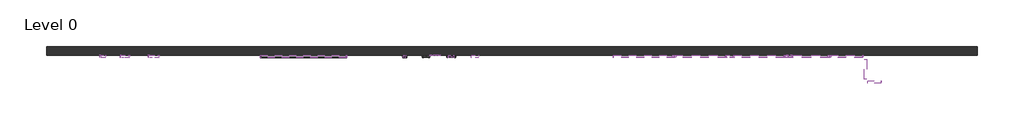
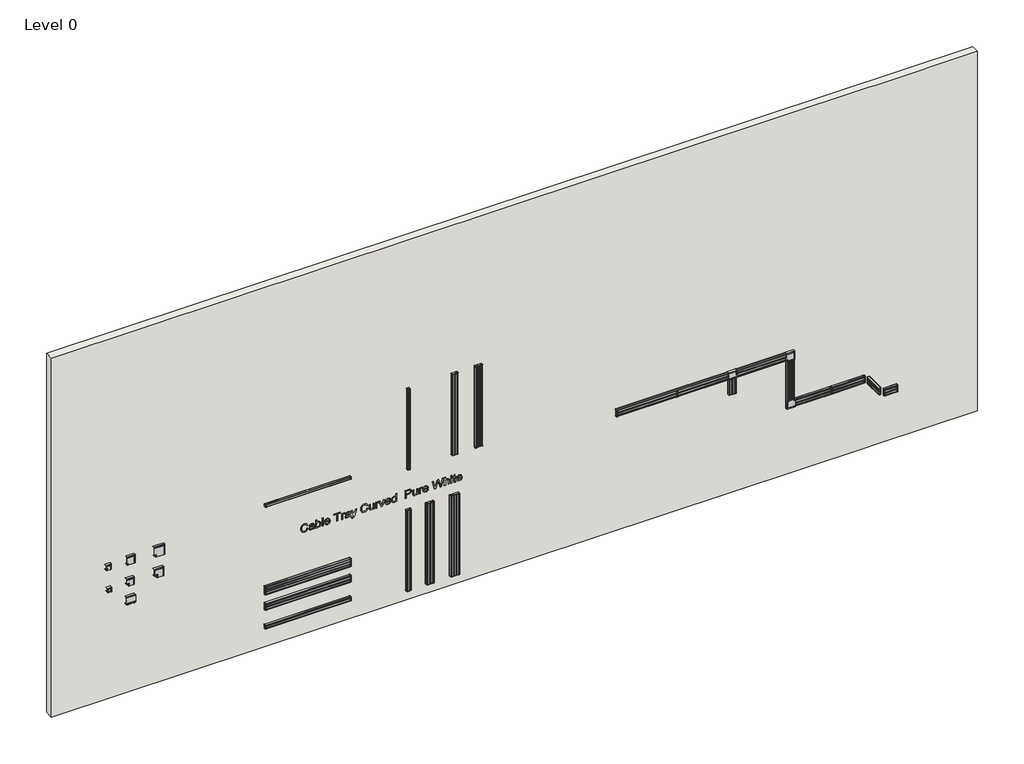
# One storey, incomplete: 21 proxies, 16 cable carrier segments, 13 cable carrier fittings, 1 wall.
"""IFC4 building model written with IfcOpenShell, lengths in millimetres."""

from ifc_helpers import new_model, si_unit, frame, origin, place, context, project, spatial, polyline, outline, extrude, faceted_brep, transform, mapped, element, save
from components import ral_9010_pure_white_70e795a8, ral_9010_pure_white_7b29b7ac, ral_9010_pure_white_c73d6e27, ral_9010_pure_white_ef00237f, ral_9010_pure_white_fda1ee66, ral_9010_pure_white_fe95fed6, ral_9010_pure_white_73966b3e, ral_9010_pure_white_6a0d687c, ral_9010_pure_white_d393c310, ral_9010_pure_white_26801523, ral_9010_pure_white_7a2c25fb, ral_9010_pure_white_f4a3dc08, ral_9010_pure_white_24a87ea1, ral_9010_pure_white_cb93105c, ral_9010_pure_white_b63ba4a8, ral_9010_pure_white_2c4c2dfb, ral_9010_pure_white_83b22ab2, ral_9010_pure_white_168bbefd, ral_9010_pure_white_77e8784b, ral_9010_pure_white_58f84067, ral_9010_pure_white_964a6856, ral_9010_pure_white_7680beca, ral_9010_pure_white_ffbb5359, ral_9010_pure_white_de79a6d9, ral_9010_pure_white_261b038a, ral_9010_pure_white_9b3faca7

model = new_model("IFC4")

# Units and contexts
model_context = context("Model", 3, world=origin())
ifc_project = project(units=[si_unit("LENGTHUNIT", "METRE", prefix="MILLI")], contexts=[model_context])

# Site, building, storey
site = spatial("IfcSite", under=ifc_project)
building = spatial("IfcBuilding", under=site)
storey = spatial("IfcBuildingStorey", under=building, Name="Level 0", Elevation=0.0)

# Proxies
placement = place(None, origin())
element("IfcBuildingElementProxy", 1, Name="200mm Arial", ObjectType="200mm Arial", at=placement, inside=storey, context=model_context, shape_type="SweptSolid", body=[
    extrude(outline(polyline([(2590.4407483, -14210.5435834), (2569.3590175, -14218.5063238), (2554.1907483, -14231.4330065), (2545.0320944, -14248.5544007), (2541.9792098, -14269.1012757), (2544.2207964, -14286.7274776), (2550.945556, -14303.0676219), (2562.2015656, -14316.6974296), (2578.0369021, -14326.1926219), (2597.7003637, -14331.7635353), (2620.4407483, -14333.6205065), (2639.0104598, -14332.0519969), (2657.0272868, -14327.346468), (2672.9647868, -14318.7707469), (2685.2965175, -14305.5916603), (2693.1931521, -14288.2238719), (2695.8253637, -14267.082045), (2693.4515656, -14248.7406988), (2686.3301714, -14233.8128142), (2674.0164694, -14222.1541603), (2656.0657483, -14213.6205065), (2661.9311329, -14189.0051219), (2686.6426714, -14199.8765161), (2705.1042098, -14216.8176219), (2716.6066137, -14239.1313238), (2720.4407483, -14266.1205065), (2717.4780079, -14290.8560834), (2708.5897868, -14313.4281988), (2693.992431, -14332.4606507), (2673.9022868, -14346.5772373), (2649.1066137, -14355.3212276), (2620.3926714, -14358.2358911), (2593.1691137, -14355.6577661), (2567.7484406, -14347.9233911), (2546.1258444, -14335.2551219), (2530.2965175, -14317.8753142), (2520.5969983, -14295.2010353), (2517.3638252, -14266.6493526), (2521.6366618, -14238.5243526), (2534.4551714, -14215.1108911), (2555.4107002, -14197.2863719), (2584.0945944, -14185.9281988), (2590.4407483, -14210.5435834)])), frame((0.0, 2566.5081828, 0.0), z_axis=(0.0, 1.0, 0.0), x_axis=(0.0, 0.0, 1.0)), (0.0, 0.0, 1.0), 5.0),
    extrude(outline(polyline([(2538.9022868, -14062.8512757), (2520.4407483, -14056.6974296), (2520.4407483, -14032.082045), (2541.1378637, -14036.9858911), (2583.9022868, -14038.2358911), (2614.5272868, -14038.2358911), (2636.0657483, -14039.4378142), (2652.7724791, -14046.9858911), (2663.758056, -14063.8368526), (2668.133056, -14093.6685834), (2663.1811329, -14126.144545), (2657.1835368, -14138.5123334), (2649.0945944, -14147.5868526), (2625.0561329, -14158.2358911), (2621.9792098, -14133.6205065), (2632.2135848, -14128.7286796), (2638.7820944, -14121.7455065), (2643.5176714, -14096.8416603), (2641.7388252, -14081.0003142), (2636.4022868, -14069.6301219), (2629.2147868, -14064.5459873), (2618.2292098, -14062.8512757), (2612.7484406, -14062.9955065), (2604.2869021, -14105.6878142), (2600.5849791, -14126.9858911), (2592.508056, -14144.221468), (2578.3734406, -14156.6012757), (2558.9022868, -14161.3128142), (2542.351806, -14158.1938238), (2529.0465175, -14148.8368526), (2520.2844983, -14133.6625738), (2517.3638252, -14113.0916603), (2522.2195944, -14086.721468), (2538.9022868, -14062.8512757)]), holes=[polyline([(2588.133056, -14062.8512757), (2581.1619021, -14062.9955065), (2562.1234406, -14066.8897373), (2547.8686329, -14082.9474296), (2543.4515656, -14094.6301219), (2541.9792098, -14107.8512757), (2543.3133444, -14120.3212276), (2547.3157483, -14129.3656988), (2553.3133444, -14134.8644969), (2560.633056, -14136.6974296), (2570.1042098, -14133.332045), (2576.5945944, -14123.7406988), (2580.5849791, -14102.5628142), (2588.133056, -14062.8512757)])]), frame((0.0, 2566.5081828, 0.0), z_axis=(0.0, 1.0, 0.0), x_axis=(0.0, 0.0, 1.0)), (0.0, 0.0, 1.0), 5.0),
    extrude(outline(polyline([(2520.4407483, -13979.7743526), (2543.4695944, -13979.7743526), (2523.8902675, -13963.1517565), (2518.9954358, -13952.8662998), (2517.3638252, -13941.2647373), (2522.4239214, -13918.3260353), (2537.6042098, -13898.9330065), (2562.0513252, -13885.7178623), (2594.9119021, -13881.3128142), (2624.2628637, -13885.5676219), (2647.7003637, -13897.3224296), (2662.7724791, -13916.457045), (2668.133056, -13941.1205065), (2662.1835368, -13962.5387757), (2644.3349791, -13979.7743526), (2717.3638252, -13979.7743526), (2717.3638252, -14004.3897373), (2520.4407483, -14004.3897373), (2520.4407483, -13979.7743526)]), holes=[polyline([(2593.758056, -13979.7743526), (2615.0921906, -13976.9979103), (2630.7292098, -13968.6685834), (2640.320556, -13956.5291603), (2643.5176714, -13942.3224296), (2640.4287291, -13928.3380546), (2631.1619021, -13916.5772373), (2615.4167098, -13908.5904584), (2592.8926714, -13905.9281988), (2570.6931521, -13908.7046411), (2554.7676714, -13917.033968), (2545.1763252, -13929.1733911), (2541.9792098, -13943.3801219), (2546.3181521, -13960.1469488), (2559.3349791, -13973.0435834), (2573.2292098, -13978.0916603), (2593.758056, -13979.7743526)])]), frame((0.0, 2566.5081828, 0.0), z_axis=(0.0, 1.0, 0.0), x_axis=(0.0, 0.0, 1.0)), (0.0, 0.0, 1.0), 5.0),
    extrude(outline(polyline([(-13829.0051219, 2566.5081828), (-13853.6205065, 2566.5081828), (-13853.6205065, 2571.5081828), (-13829.0051219, 2571.5081828), (-13829.0051219, 2566.5081828)])), frame((0.0, 0.0, 2520.4407483), z_axis=(0.0, 0.0, 1.0), x_axis=(1.0, 0.0, 0.0)), (0.0, 0.0, 1.0), 196.9230769),
    extrude(outline(polyline([(2563.5176714, -13690.832045), (2553.7941137, -13697.7310834), (2547.1234406, -13706.6974296), (2541.9792098, -13730.832045), (2544.7556521, -13748.25392), (2553.0849791, -13762.5387757), (2566.6306521, -13772.4366123), (2585.0561329, -13776.6974296), (2585.0561329, -13666.0724296), (2591.6907483, -13665.9281988), (2623.9623829, -13670.59767), (2648.0849791, -13684.6060834), (2663.1210368, -13705.9702661), (2668.133056, -13732.707045), (2663.1090175, -13760.3031988), (2648.0369021, -13782.2262757), (2623.8662291, -13796.5411796), (2591.5465175, -13801.3128142), (2560.2784887, -13796.5892565), (2536.8590175, -13782.4185834), (2522.2376233, -13760.1950257), (2517.3638252, -13731.3128142), (2520.1883444, -13708.0135353), (2528.6619021, -13689.269545), (2542.2556521, -13675.393343), (2560.4407483, -13666.6974296), (2563.5176714, -13690.832045)]), holes=[polyline([(2609.6715175, -13776.6974296), (2623.5477194, -13772.6529584), (2634.3109406, -13763.1156988), (2641.2159887, -13749.3957469), (2643.5176714, -13732.8031988), (2640.633056, -13714.7503142), (2631.9792098, -13700.3993526), (2622.6763252, -13693.8729103), (2609.6715175, -13690.5435834), (2609.6715175, -13776.6974296)])]), frame((0.0, 2566.5081828, 0.0), z_axis=(0.0, 1.0, 0.0), x_axis=(0.0, 0.0, 1.0)), (0.0, 0.0, 1.0), 5.0),
    extrude(outline(polyline([(2520.4407483, -13512.082045), (2520.4407483, -13487.4666603), (2692.7484406, -13487.4666603), (2692.7484406, -13422.8512757), (2717.3638252, -13422.8512757), (2717.3638252, -13576.6974296), (2692.7484406, -13576.6974296), (2692.7484406, -13512.082045), (2520.4407483, -13512.082045)])), frame((0.0, 2566.5081828, 0.0), z_axis=(0.0, 1.0, 0.0), x_axis=(0.0, 0.0, 1.0)), (0.0, 0.0, 1.0), 5.0),
    extrude(outline(polyline([(2520.4407483, -13398.2358911), (2520.4407483, -13373.6205065), (2596.4503637, -13373.6205065), (2625.2003637, -13369.6301219), (2638.6619021, -13360.7599296), (2643.5176714, -13346.8416603), (2638.4695944, -13329.533968), (2660.5369021, -13321.3128142), (2666.2340175, -13333.7647373), (2668.133056, -13346.0243526), (2663.3734406, -13361.408968), (2643.6619021, -13376.6974296), (2665.0561329, -13376.6974296), (2665.0561329, -13398.2358911), (2520.4407483, -13398.2358911)])), frame((0.0, 2566.5081828, 0.0), z_axis=(0.0, 1.0, 0.0), x_axis=(0.0, 0.0, 1.0)), (0.0, 0.0, 1.0), 5.0),
    extrude(outline(polyline([(2538.9022868, -13213.6205065), (2520.4407483, -13207.4666603), (2520.4407483, -13182.8512757), (2541.1378637, -13187.7551219), (2583.9022868, -13189.0051219), (2614.5272868, -13189.0051219), (2636.0657483, -13190.207045), (2652.7724791, -13197.7551219), (2663.758056, -13214.6060834), (2668.133056, -13244.4378142), (2663.1811329, -13276.9137757), (2657.1835368, -13289.2815642), (2649.0945944, -13298.3560834), (2625.0561329, -13309.0051219), (2621.9792098, -13284.3897373), (2632.2135848, -13279.4979103), (2638.7820944, -13272.5147373), (2643.5176714, -13247.6108911), (2641.7388252, -13231.769545), (2636.4022868, -13220.3993526), (2629.2147868, -13215.315218), (2618.2292098, -13213.6205065), (2612.7484406, -13213.7647373), (2604.2869021, -13256.457045), (2600.5849791, -13277.7551219), (2592.508056, -13294.9906988), (2578.3734406, -13307.3705065), (2558.9022868, -13312.082045), (2542.351806, -13308.9630546), (2529.0465175, -13299.6060834), (2520.2844983, -13284.4318046), (2517.3638252, -13263.8608911), (2522.2195944, -13237.4906988), (2538.9022868, -13213.6205065)]), holes=[polyline([(2588.133056, -13213.6205065), (2581.1619021, -13213.7647373), (2562.1234406, -13217.658968), (2547.8686329, -13233.7166603), (2543.4515656, -13245.3993526), (2541.9792098, -13258.6205065), (2543.3133444, -13271.0904584), (2547.3157483, -13280.1349296), (2553.3133444, -13285.6337276), (2560.633056, -13287.4666603), (2570.1042098, -13284.1012757), (2576.5945944, -13274.5099296), (2580.5849791, -13253.332045), (2588.133056, -13213.6205065)])]), frame((0.0, 2566.5081828, 0.0), z_axis=(0.0, 1.0, 0.0), x_axis=(0.0, 0.0, 1.0)), (0.0, 0.0, 1.0), 5.0),
    extrude(outline(polyline([(2465.0561329, -13155.158968), (2461.9792098, -13140.1108911), (2467.508056, -13120.9281988), (2484.8638252, -13106.6493526), (2516.9792098, -13093.5724296), (2665.0561329, -13043.2358911), (2665.0561329, -13069.0051219), (2581.0176714, -13097.5147373), (2552.6522868, -13107.1781988), (2584.7676714, -13116.8416603), (2665.0561329, -13144.582045), (2665.0561329, -13170.5435834), (2520.9695944, -13118.2358911), (2515.008056, -13120.158968), (2496.883056, -13126.8897373), (2489.3109406, -13134.0531988), (2486.5945944, -13145.7358911), (2488.758056, -13158.2358911), (2465.0561329, -13155.158968)])), frame((0.0, 2566.5081828, 0.0), z_axis=(0.0, 1.0, 0.0), x_axis=(0.0, 0.0, 1.0)), (0.0, 0.0, 1.0), 5.0),
    extrude(outline(polyline([(2590.4407483, -12804.3897373), (2569.3590175, -12812.3524776), (2554.1907483, -12825.2791603), (2545.0320944, -12842.4005546), (2541.9792098, -12862.9474296), (2544.2207964, -12880.5736315), (2550.945556, -12896.9137757), (2562.2015656, -12910.5435834), (2578.0369021, -12920.0387757), (2597.7003637, -12925.6096892), (2620.4407483, -12927.4666603), (2639.0104598, -12925.8981507), (2657.0272868, -12921.1926219), (2672.9647868, -12912.6169007), (2685.2965175, -12899.4378142), (2693.1931521, -12882.0700257), (2695.8253637, -12860.9281988), (2693.4515656, -12842.5868526), (2686.3301714, -12827.658968), (2674.0164694, -12816.0003142), (2656.0657483, -12807.4666603), (2661.9311329, -12782.8512757), (2686.6426714, -12793.72267), (2705.1042098, -12810.6637757), (2716.6066137, -12832.9774776), (2720.4407483, -12859.9666603), (2717.4780079, -12884.7022373), (2708.5897868, -12907.2743526), (2693.992431, -12926.3068046), (2673.9022868, -12940.4233911), (2649.1066137, -12949.1673815), (2620.3926714, -12952.082045), (2593.1691137, -12949.50392), (2567.7484406, -12941.769545), (2546.1258444, -12929.1012757), (2530.2965175, -12911.721468), (2520.5969983, -12889.0471892), (2517.3638252, -12860.4955065), (2521.6366618, -12832.3705065), (2534.4551714, -12808.957045), (2555.4107002, -12791.1325257), (2584.0945944, -12779.7743526), (2590.4407483, -12804.3897373)])), frame((0.0, 2566.5081828, 0.0), z_axis=(0.0, 1.0, 0.0), x_axis=(0.0, 0.0, 1.0)), (0.0, 0.0, 1.0), 5.0),
    extrude(outline(polyline([(2520.4407483, -12656.6974296), (2520.4407483, -12632.082045), (2665.0561329, -12632.082045), (2665.0561329, -12656.6974296), (2589.8157483, -12656.6974296), (2562.3878637, -12660.6878142), (2553.9323348, -12666.0784392), (2547.4599791, -12674.269545), (2541.9792098, -12694.8224296), (2547.3397868, -12713.1637757), (2553.7039694, -12719.3116123), (2562.0753637, -12722.8993526), (2587.1715175, -12724.3897373), (2665.0561329, -12724.3897373), (2665.0561329, -12749.0051219), (2575.5849791, -12749.0051219), (2552.7003637, -12747.5628142), (2534.5753637, -12740.2310834), (2522.2676714, -12724.269545), (2517.3638252, -12701.1205065), (2519.1096185, -12687.815218), (2524.3469983, -12675.9762757), (2533.0759646, -12665.6036796), (2545.2965175, -12656.6974296), (2520.4407483, -12656.6974296)])), frame((0.0, 2566.5081828, 0.0), z_axis=(0.0, 1.0, 0.0), x_axis=(0.0, 0.0, 1.0)), (0.0, 0.0, 1.0), 5.0),
    extrude(outline(polyline([(2520.4407483, -12598.2358911), (2520.4407483, -12573.6205065), (2596.4503637, -12573.6205065), (2625.2003637, -12569.6301219), (2638.6619021, -12560.7599296), (2643.5176714, -12546.8416603), (2638.4695944, -12529.533968), (2660.5369021, -12521.3128142), (2666.2340175, -12533.7647373), (2668.133056, -12546.0243526), (2663.3734406, -12561.408968), (2643.6619021, -12576.6974296), (2665.0561329, -12576.6974296), (2665.0561329, -12598.2358911), (2520.4407483, -12598.2358911)])), frame((0.0, 2566.5081828, 0.0), z_axis=(0.0, 1.0, 0.0), x_axis=(0.0, 0.0, 1.0)), (0.0, 0.0, 1.0), 5.0),
    extrude(outline(polyline([(2520.4407483, -12470.4474296), (2520.4407483, -12439.2455065), (2665.0561329, -12389.0051219), (2665.0561329, -12415.0628142), (2576.7869021, -12446.0724296), (2549.2869021, -12455.158968), (2578.4215175, -12464.4378142), (2665.0561329, -12495.2551219), (2665.0561329, -12521.3128142), (2520.4407483, -12470.4474296)])), frame((0.0, 2566.5081828, 0.0), z_axis=(0.0, 1.0, 0.0), x_axis=(0.0, 0.0, 1.0)), (0.0, 0.0, 1.0), 5.0),
    extrude(outline(polyline([(2563.5176714, -12266.2166603), (2553.7941137, -12273.1156988), (2547.1234406, -12282.082045), (2541.9792098, -12306.2166603), (2544.7556521, -12323.6385353), (2553.0849791, -12337.9233911), (2566.6306521, -12347.8212276), (2585.0561329, -12352.082045), (2585.0561329, -12241.457045), (2591.6907483, -12241.3128142), (2623.9623829, -12245.9822853), (2648.0849791, -12259.9906988), (2663.1210368, -12281.3548815), (2668.133056, -12308.0916603), (2663.1090175, -12335.6878142), (2648.0369021, -12357.6108911), (2623.8662291, -12371.925795), (2591.5465175, -12376.6974296), (2560.2784887, -12371.9738719), (2536.8590175, -12357.8031988), (2522.2376233, -12335.5796411), (2517.3638252, -12306.6974296), (2520.1883444, -12283.3981507), (2528.6619021, -12264.6541603), (2542.2556521, -12250.7779584), (2560.4407483, -12242.082045), (2563.5176714, -12266.2166603)]), holes=[polyline([(2609.6715175, -12352.082045), (2623.5477194, -12348.0375738), (2634.3109406, -12338.5003142), (2641.2159887, -12324.7803623), (2643.5176714, -12308.1878142), (2640.633056, -12290.1349296), (2631.9792098, -12275.783968), (2622.6763252, -12269.2575257), (2609.6715175, -12265.9281988), (2609.6715175, -12352.082045)])]), frame((0.0, 2566.5081828, 0.0), z_axis=(0.0, 1.0, 0.0), x_axis=(0.0, 0.0, 1.0)), (0.0, 0.0, 1.0), 5.0),
    extrude(outline(polyline([(2520.4407483, -12127.4666603), (2520.4407483, -12102.8512757), (2717.3638252, -12102.8512757), (2717.3638252, -12127.4666603), (2643.9984406, -12127.4666603), (2661.4263252, -12143.6685834), (2666.4563733, -12154.3176219), (2668.133056, -12166.3608911), (2665.789306, -12182.893343), (2658.758056, -12197.7791603), (2647.3277675, -12210.0868526), (2631.7869021, -12218.8849296), (2613.1931521, -12224.1673815), (2592.6042098, -12225.9281988), (2571.7568541, -12224.0171411), (2553.445556, -12218.283968), (2538.2832964, -12209.0772373), (2526.883056, -12196.7455065), (2519.7436329, -12182.1781988), (2517.3638252, -12166.2647373), (2519.007455, -12154.2304825), (2523.9383444, -12143.752718), (2532.1564935, -12134.831444), (2543.6619021, -12127.4666603), (2520.4407483, -12127.4666603)]), holes=[polyline([(2592.7003637, -12201.3128142), (2615.5188733, -12198.7166603), (2631.2820944, -12190.9281988), (2640.4587771, -12179.2575257), (2643.5176714, -12165.0147373), (2640.3325752, -12150.4053623), (2630.7772868, -12138.3080065), (2614.4191137, -12130.1769969), (2590.8253637, -12127.4666603), (2569.2448348, -12130.12892), (2554.0224791, -12138.1156988), (2544.9900271, -12149.9125738), (2541.9792098, -12164.0051219), (2545.1342579, -12178.1036796), (2554.5994021, -12190.207045), (2570.4347387, -12198.5363719), (2592.7003637, -12201.3128142)])]), frame((0.0, 2566.5081828, 0.0), z_axis=(0.0, 1.0, 0.0), x_axis=(0.0, 0.0, 1.0)), (0.0, 0.0, 1.0), 5.0),
    extrude(outline(polyline([(2520.4407483, -11909.0051219), (2520.4407483, -11884.3897373), (2600.4407483, -11884.3897373), (2600.4407483, -11834.3416603), (2604.7917098, -11799.3717084), (2610.2304118, -11786.6688839), (2617.8445944, -11777.1541603), (2637.1835368, -11765.2731507), (2660.3926714, -11761.3128142), (2687.2436329, -11767.1781988), (2698.1210368, -11773.987093), (2706.2820944, -11782.6830065), (2715.4888252, -11806.6012757), (2717.3638252, -11836.0243526), (2717.3638252, -11909.0051219), (2520.4407483, -11909.0051219)]), holes=[polyline([(2625.0561329, -11884.3897373), (2692.7484406, -11884.3897373), (2692.7484406, -11833.4762757), (2691.0657483, -11808.8608911), (2686.9311329, -11799.5640161), (2679.9119021, -11792.2503142), (2670.5849791, -11787.5087276), (2659.5272868, -11785.9281988), (2644.9719983, -11788.6084873), (2634.0945944, -11796.6493526), (2627.3157483, -11811.0724296), (2625.0561329, -11832.8993526), (2625.0561329, -11884.3897373)])]), frame((0.0, 2566.5081828, 0.0), z_axis=(0.0, 1.0, 0.0), x_axis=(0.0, 0.0, 1.0)), (0.0, 0.0, 1.0), 5.0),
    extrude(outline(polyline([(2520.4407483, -11638.2358911), (2520.4407483, -11613.6205065), (2665.0561329, -11613.6205065), (2665.0561329, -11638.2358911), (2589.8157483, -11638.2358911), (2562.3878637, -11642.2262757), (2553.9323348, -11647.6169007), (2547.4599791, -11655.8080065), (2541.9792098, -11676.3608911), (2547.3397868, -11694.7022373), (2553.7039694, -11700.8500738), (2562.0753637, -11704.4378142), (2587.1715175, -11705.9281988), (2665.0561329, -11705.9281988), (2665.0561329, -11730.5435834), (2575.5849791, -11730.5435834), (2552.7003637, -11729.1012757), (2534.5753637, -11721.769545), (2522.2676714, -11705.8080065), (2517.3638252, -11682.658968), (2519.1096185, -11669.3536796), (2524.3469983, -11657.5147373), (2533.0759646, -11647.1421411), (2545.2965175, -11638.2358911), (2520.4407483, -11638.2358911)])), frame((0.0, 2566.5081828, 0.0), z_axis=(0.0, 1.0, 0.0), x_axis=(0.0, 0.0, 1.0)), (0.0, 0.0, 1.0), 5.0),
    extrude(outline(polyline([(2520.4407483, -11579.7743526), (2520.4407483, -11555.158968), (2596.4503637, -11555.158968), (2625.2003637, -11551.1685834), (2638.6619021, -11542.2983911), (2643.5176714, -11528.3801219), (2638.4695944, -11511.0724296), (2660.5369021, -11502.8512757), (2666.2340175, -11515.3031988), (2668.133056, -11527.5628142), (2663.3734406, -11542.9474296), (2643.6619021, -11558.2358911), (2665.0561329, -11558.2358911), (2665.0561329, -11579.7743526), (2520.4407483, -11579.7743526)])), frame((0.0, 2566.5081828, 0.0), z_axis=(0.0, 1.0, 0.0), x_axis=(0.0, 0.0, 1.0)), (0.0, 0.0, 1.0), 5.0),
    extrude(outline(polyline([(2563.5176714, -11386.2166603), (2553.7941137, -11393.1156988), (2547.1234406, -11402.082045), (2541.9792098, -11426.2166603), (2544.7556521, -11443.6385353), (2553.0849791, -11457.9233911), (2566.6306521, -11467.8212276), (2585.0561329, -11472.082045), (2585.0561329, -11361.457045), (2591.6907483, -11361.3128142), (2623.9623829, -11365.9822853), (2648.0849791, -11379.9906988), (2663.1210368, -11401.3548815), (2668.133056, -11428.0916603), (2663.1090175, -11455.6878142), (2648.0369021, -11477.6108911), (2623.8662291, -11491.925795), (2591.5465175, -11496.6974296), (2560.2784887, -11491.9738719), (2536.8590175, -11477.8031988), (2522.2376233, -11455.5796411), (2517.3638252, -11426.6974296), (2520.1883444, -11403.3981507), (2528.6619021, -11384.6541603), (2542.2556521, -11370.7779584), (2560.4407483, -11362.082045), (2563.5176714, -11386.2166603)]), holes=[polyline([(2609.6715175, -11472.082045), (2623.5477194, -11468.0375738), (2634.3109406, -11458.5003142), (2641.2159887, -11444.7803623), (2643.5176714, -11428.1878142), (2640.633056, -11410.1349296), (2631.9792098, -11395.783968), (2622.6763252, -11389.2575257), (2609.6715175, -11385.9281988), (2609.6715175, -11472.082045)])]), frame((0.0, 2566.5081828, 0.0), z_axis=(0.0, 1.0, 0.0), x_axis=(0.0, 0.0, 1.0)), (0.0, 0.0, 1.0), 5.0),
    extrude(outline(polyline([(2520.4407483, -11221.457045), (2520.4407483, -11191.7455065), (2668.0369021, -11148.7166603), (2693.5657483, -11141.3128142), (2672.3638252, -11134.7262757), (2520.4407483, -11087.5147373), (2520.4407483, -11061.2166603), (2717.3638252, -11007.4666603), (2717.3638252, -11032.8512757), (2586.7869021, -11064.2935834), (2547.9888252, -11073.6205065), (2620.2003637, -11094.7262757), (2717.3638252, -11123.0916603), (2717.3638252, -11159.6781988), (2583.3253637, -11198.7166603), (2547.9888252, -11209.0051219), (2587.9407483, -11218.6205065), (2717.3638252, -11249.7743526), (2717.3638252, -11275.158968), (2520.4407483, -11221.457045)])), frame((0.0, 2566.5081828, 0.0), z_axis=(0.0, 1.0, 0.0), x_axis=(0.0, 0.0, 1.0)), (0.0, 0.0, 1.0), 5.0),
    extrude(outline(polyline([(2520.4407483, -10985.9281988), (2520.4407483, -10961.3128142), (2597.2676714, -10961.3128142), (2623.1811329, -10957.2983911), (2631.5825752, -10951.925795), (2638.0369021, -10943.8368526), (2643.5176714, -10923.6685834), (2641.4864214, -10910.9281988), (2635.3926714, -10901.457045), (2624.8397868, -10895.5796411), (2609.4311329, -10893.6205065), (2520.4407483, -10893.6205065), (2520.4407483, -10869.0051219), (2611.9792098, -10869.0051219), (2630.6691137, -10870.2671411), (2644.3349791, -10874.0531988), (2654.2808925, -10880.7719488), (2661.8109406, -10890.832045), (2666.5525271, -10903.6084873), (2668.133056, -10918.4762757), (2662.3397868, -10942.1181026), (2644.9599791, -10961.3128142), (2717.3638252, -10961.3128142), (2717.3638252, -10985.9281988), (2520.4407483, -10985.9281988)])), frame((0.0, 2566.5081828, 0.0), z_axis=(0.0, 1.0, 0.0), x_axis=(0.0, 0.0, 1.0)), (0.0, 0.0, 1.0), 5.0),
    extrude(outline(polyline([(-10810.5435834, 2566.5081828), (-10835.158968, 2566.5081828), (-10835.158968, 2571.5081828), (-10810.5435834, 2571.5081828), (-10810.5435834, 2566.5081828)])), frame((0.0, 0.0, 2520.4407483), z_axis=(0.0, 0.0, 1.0), x_axis=(1.0, 0.0, 0.0)), (0.0, 0.0, 1.0), 144.6153846),
    extrude(outline(polyline([(-10810.5435834, 2566.5081828), (-10835.158968, 2566.5081828), (-10835.158968, 2571.5081828), (-10810.5435834, 2571.5081828), (-10810.5435834, 2566.5081828)])), frame((0.0, 0.0, 2692.7484406), z_axis=(0.0, 0.0, 1.0), x_axis=(1.0, 0.0, 0.0)), (0.0, 0.0, 1.0), 24.6153846),
    extrude(outline(polyline([(2540.9695944, -10721.3128142), (2541.9792098, -10732.033968), (2543.6378637, -10740.4233911), (2548.133056, -10744.6301219), (2560.8253637, -10745.9281988), (2640.4407483, -10745.9281988), (2640.4407483, -10721.3128142), (2665.0561329, -10721.3128142), (2665.0561329, -10745.9281988), (2714.6715175, -10745.9281988), (2700.2003637, -10770.5435834), (2665.0561329, -10770.5435834), (2665.0561329, -10789.0051219), (2640.4407483, -10789.0051219), (2640.4407483, -10770.5435834), (2560.1042098, -10770.5435834), (2532.1715175, -10767.5628142), (2521.4503637, -10757.2743526), (2517.3638252, -10736.6493526), (2519.7195944, -10718.2358911), (2540.9695944, -10721.3128142)])), frame((0.0, 2566.5081828, 0.0), z_axis=(0.0, 1.0, 0.0), x_axis=(0.0, 0.0, 1.0)), (0.0, 0.0, 1.0), 5.0),
    extrude(outline(polyline([(2563.5176714, -10595.4474296), (2553.7941137, -10602.346468), (2547.1234406, -10611.3128142), (2541.9792098, -10635.4474296), (2544.7556521, -10652.8693046), (2553.0849791, -10667.1541603), (2566.6306521, -10677.0519969), (2585.0561329, -10681.3128142), (2585.0561329, -10570.6878142), (2591.6907483, -10570.5435834), (2623.9623829, -10575.2130546), (2648.0849791, -10589.221468), (2663.1210368, -10610.5856507), (2668.133056, -10637.3224296), (2663.1090175, -10664.9185834), (2648.0369021, -10686.8416603), (2623.8662291, -10701.1565642), (2591.5465175, -10705.9281988), (2560.2784887, -10701.2046411), (2536.8590175, -10687.033968), (2522.2376233, -10664.8104103), (2517.3638252, -10635.9281988), (2520.1883444, -10612.62892), (2528.6619021, -10593.8849296), (2542.2556521, -10580.0087276), (2560.4407483, -10571.3128142), (2563.5176714, -10595.4474296)]), holes=[polyline([(2609.6715175, -10681.3128142), (2623.5477194, -10677.268343), (2634.3109406, -10667.7310834), (2641.2159887, -10654.0111315), (2643.5176714, -10637.4185834), (2640.633056, -10619.3656988), (2631.9792098, -10605.0147373), (2622.6763252, -10598.488295), (2609.6715175, -10595.158968), (2609.6715175, -10681.3128142)])]), frame((0.0, 2566.5081828, 0.0), z_axis=(0.0, 1.0, 0.0), x_axis=(0.0, 0.0, 1.0)), (0.0, 0.0, 1.0), 5.0),
])
ral_9010_pure_white_shape = ral_9010_pure_white_70e795a8(model_context)
element("IfcBuildingElementProxy", 2, Name="Electrical_Installations_Hager_GBD-Curved-Lid-End-Cap : RAL 9010 - pure white", ObjectType="Electrical_Installations_Hager_GBD-Curved-Lid-End-Cap : RAL 9010 - pure white", at=placement, inside=storey, context=model_context, shape_type="MappedRepresentation", body=[
    mapped(ral_9010_pure_white_shape, transform((-11345.0321542, 2545.5260198, 2243.4145405), x_axis=(0.0, 0.0, -1.0), y_axis=(1.0, 0.0, 0.0), z_axis=(0.0, -1.0, 0.0))),
])
element("IfcBuildingElementProxy", 3, Name="Electrical_Installations_Hager_GBD-Curved-Lid-End-Cap : RAL 9010 - pure white", ObjectType="Electrical_Installations_Hager_GBD-Curved-Lid-End-Cap : RAL 9010 - pure white", at=placement, inside=storey, context=model_context, shape_type="MappedRepresentation", body=[
    mapped(ral_9010_pure_white_shape, transform((-15206.2821542, 2545.5260198, 1015.9145405), x_axis=(1.0, 0.0, 0.0), y_axis=(0.0, 0.0, 1.0), z_axis=(0.0, -1.0, 0.0))),
])
ral_9010_pure_white_2_shape = ral_9010_pure_white_7b29b7ac(model_context)
element("IfcBuildingElementProxy", 4, Name="Electrical_Installations_Hager_GBD-Curved-Lid-End-Cap : RAL 9010 - pure white", ObjectType="Electrical_Installations_Hager_GBD-Curved-Lid-End-Cap : RAL 9010 - pure white", at=placement, inside=storey, context=model_context, shape_type="MappedRepresentation", body=[
    mapped(ral_9010_pure_white_2_shape, transform((-10765.0321542, 2545.5260198, 2243.4145405), x_axis=(0.0, 0.0, -1.0), y_axis=(1.0, 0.0, 0.0), z_axis=(0.0, -1.0, 0.0))),
])
element("IfcBuildingElementProxy", 5, Name="Electrical_Installations_Hager_GBD-Curved-Lid-End-Cap : RAL 9010 - pure white", ObjectType="Electrical_Installations_Hager_GBD-Curved-Lid-End-Cap : RAL 9010 - pure white", at=placement, inside=storey, context=model_context, shape_type="MappedRepresentation", body=[
    mapped(ral_9010_pure_white_2_shape, transform((-15206.2821542, 2545.5260198, 1415.9145405), x_axis=(1.0, 0.0, 0.0), y_axis=(0.0, 0.0, 1.0), z_axis=(0.0, -1.0, 0.0))),
])
ral_9010_pure_white_3_shape = ral_9010_pure_white_c73d6e27(model_context)
element("IfcBuildingElementProxy", 6, Name="Electrical_Installations_Hager_GBD-Curved-Lid-End-Cap : RAL 9010 - pure white", ObjectType="Electrical_Installations_Hager_GBD-Curved-Lid-End-Cap : RAL 9010 - pure white", at=placement, inside=storey, context=model_context, shape_type="MappedRepresentation", body=[
    mapped(ral_9010_pure_white_3_shape, transform((-4347.0321542, 2544.0960198, 2932.9948074), x_axis=(-1.0, 0.0, 0.0), y_axis=(0.0, 0.0, -1.0), z_axis=(0.0, -1.0, 0.0))),
])
ral_9010_pure_white_4_shape = ral_9010_pure_white_ef00237f(model_context)
element("IfcBuildingElementProxy", 7, Name="Electrical_Installations_Hager_GBD-Curved-Lid-End-Cap : RAL 9010 - pure white", ObjectType="Electrical_Installations_Hager_GBD-Curved-Lid-End-Cap : RAL 9010 - pure white", at=placement, inside=storey, context=model_context, shape_type="MappedRepresentation", body=[
    mapped(ral_9010_pure_white_4_shape, transform((-5559.1766964, 2544.0960198, 2932.9948074), x_axis=(-1.0, 0.0, 0.0), y_axis=(0.0, 0.0, -1.0), z_axis=(0.0, -1.0, 0.0))),
])
ral_9010_pure_white_5_shape = ral_9010_pure_white_fda1ee66(model_context)
element("IfcBuildingElementProxy", 8, Name="Electrical_Installations_Hager_GBD-Curved-Lid-End-Cap : RAL 9010 - pure white", ObjectType="Electrical_Installations_Hager_GBD-Curved-Lid-End-Cap : RAL 9010 - pure white", at=placement, inside=storey, context=model_context, shape_type="MappedRepresentation", body=[
    mapped(ral_9010_pure_white_5_shape, transform((-2900.5321542, 2544.0960198, 2835.4948074), x_axis=(0.0, 0.0, -1.0), y_axis=(1.0, 0.0, 0.0), z_axis=(0.0, -1.0, 0.0))),
])
ral_9010_pure_white_6_shape = ral_9010_pure_white_fe95fed6(model_context)
element("IfcBuildingElementProxy", 9, Name="Electrical_Installations_Hager_GBD-Curved-Lid-End-Cap : RAL 9010 - pure white", ObjectType="Electrical_Installations_Hager_GBD-Curved-Lid-End-Cap : RAL 9010 - pure white", at=placement, inside=storey, context=model_context, shape_type="MappedRepresentation", body=[
    mapped(ral_9010_pure_white_6_shape, transform((-2900.5321542, 2544.0960198, 2282.5487256), x_axis=(0.0, 0.0, -1.0), y_axis=(1.0, 0.0, 0.0), z_axis=(0.0, -1.0, 0.0))),
])
ral_9010_pure_white_7_shape = ral_9010_pure_white_73966b3e(model_context)
element("IfcBuildingElementProxy", 10, Name="Electrical_Installations_Hager_GBD-Curved-Lid-End-Cap : RAL 9010 - pure white", ObjectType="Electrical_Installations_Hager_GBD-Curved-Lid-End-Cap : RAL 9010 - pure white", at=placement, inside=storey, context=model_context, shape_type="MappedRepresentation", body=[
    mapped(ral_9010_pure_white_7_shape, transform((-4265.0321542, 2544.0960198, 2866.9561831), x_axis=(0.0, 0.0, -1.0), y_axis=(1.0, 0.0, 0.0), z_axis=(0.0, -1.0, 0.0))),
])
ral_9010_pure_white_8_shape = ral_9010_pure_white_6a0d687c(model_context)
element("IfcBuildingElementProxy", 11, Name="Electrical_Installations_Hager_GBD-Curved-Lid-End-Cap : RAL 9010 - pure white", ObjectType="Electrical_Installations_Hager_GBD-Curved-Lid-End-Cap : RAL 9010 - pure white", at=placement, inside=storey, context=model_context, shape_type="MappedRepresentation", body=[
    mapped(ral_9010_pure_white_8_shape, transform((-2803.0321542, 2544.0960198, 1732.9996767), x_axis=(1.0, 0.0, 0.0), y_axis=(0.0, 0.0, 1.0), z_axis=(0.0, -1.0, 0.0))),
])
ral_9010_pure_white_9_shape = ral_9010_pure_white_d393c310(model_context)
element("IfcBuildingElementProxy", 12, Name="Electrical_Installations_Hager_GBD-Curved-Lid-End-Cap : RAL 9010 - pure white", ObjectType="Electrical_Installations_Hager_GBD-Curved-Lid-End-Cap : RAL 9010 - pure white", at=placement, inside=storey, context=model_context, shape_type="MappedRepresentation", body=[
    mapped(ral_9010_pure_white_9_shape, transform((-1939.0732651, 2544.0960198, 1732.9996767), x_axis=(1.0, 0.0, 0.0), y_axis=(0.0, 0.0, 1.0), z_axis=(0.0, -1.0, 0.0))),
])
ral_9010_pure_white_10_shape = ral_9010_pure_white_26801523(model_context)
element("IfcBuildingElementProxy", 13, Name="Electrical_Installations_Hager_GBD-Curved-Lid-End-Cap : RAL 9010 - pure white", ObjectType="Electrical_Installations_Hager_GBD-Curved-Lid-End-Cap : RAL 9010 - pure white", at=placement, inside=storey, context=model_context, shape_type="MappedRepresentation", body=[
    mapped(ral_9010_pure_white_10_shape, transform((-4183.0321542, 2544.0960198, 2932.9948074), x_axis=(1.0, 0.0, 0.0), y_axis=(0.0, 0.0, 1.0), z_axis=(0.0, -1.0, 0.0))),
])
ral_9010_pure_white_11_shape = ral_9010_pure_white_7a2c25fb(model_context)
element("IfcBuildingElementProxy", 14, Name="Electrical_Installations_Hager_GBD-Curved-Lid-End-Cap : RAL 9010 - pure white", ObjectType="Electrical_Installations_Hager_GBD-Curved-Lid-End-Cap : RAL 9010 - pure white", at=placement, inside=storey, context=model_context, shape_type="MappedRepresentation", body=[
    mapped(ral_9010_pure_white_11_shape, transform((-1102.3041711, 2475.6923792, 1733.0), x_axis=(0.0, -1.0, 0.0), y_axis=(0.0, 0.0, 1.0), z_axis=(-1.0, 0.0, 0.0))),
])
ral_9010_pure_white_12_shape = ral_9010_pure_white_f4a3dc08(model_context)
element("IfcBuildingElementProxy", 15, Name="Electrical_Installations_Hager_GBD-Curved-Lid-End-Cap : RAL 9010 - pure white", ObjectType="Electrical_Installations_Hager_GBD-Curved-Lid-End-Cap : RAL 9010 - pure white", at=placement, inside=storey, context=model_context, shape_type="MappedRepresentation", body=[
    mapped(ral_9010_pure_white_12_shape, transform((-1050.7043077, 1944.4593671, 1733.0), x_axis=(0.9999889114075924, -0.004709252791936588, 0.0), y_axis=(0.0, 0.0, 1.0), z_axis=(-0.004709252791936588, -0.9999889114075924, 0.0))),
])
ral_9010_pure_white_13_shape = ral_9010_pure_white_24a87ea1(model_context)
element("IfcBuildingElementProxy", 16, Name="Electrical_Installations_Hager_GBD-Flat-Lid-End-Cap : RAL 9010 - pure white", ObjectType="Electrical_Installations_Hager_GBD-Flat-Lid-End-Cap : RAL 9010 - pure white", at=placement, inside=storey, context=model_context, shape_type="MappedRepresentation", body=[
    mapped(ral_9010_pure_white_13_shape, transform((-10205.0321542, 2571.5260198, 5243.4145405), x_axis=(0.0, 0.0, -1.0), y_axis=(1.0, 0.0, 0.0), z_axis=(0.0, -1.0, 0.0))),
])
ral_9010_pure_white_14_shape = ral_9010_pure_white_cb93105c(model_context)
element("IfcBuildingElementProxy", 17, Name="Electrical_Installations_Hager_GBD-Flat-Lid-End-Cap : RAL 9010 - pure white", ObjectType="Electrical_Installations_Hager_GBD-Flat-Lid-End-Cap : RAL 9010 - pure white", at=placement, inside=storey, context=model_context, shape_type="MappedRepresentation", body=[
    mapped(ral_9010_pure_white_14_shape, transform((-10765.0321542, 2571.5260198, 5243.4145405), x_axis=(0.0, 0.0, -1.0), y_axis=(1.0, 0.0, 0.0), z_axis=(0.0, -1.0, 0.0))),
])
ral_9010_pure_white_15_shape = ral_9010_pure_white_b63ba4a8(model_context)
element("IfcBuildingElementProxy", 18, Name="Electrical_Installations_Hager_GBD-Flat-Lid-End-Cap : RAL 9010 - pure white", ObjectType="Electrical_Installations_Hager_GBD-Flat-Lid-End-Cap : RAL 9010 - pure white", at=placement, inside=storey, context=model_context, shape_type="MappedRepresentation", body=[
    mapped(ral_9010_pure_white_15_shape, transform((-11845.0321542, 2571.5260198, 5243.4145405), x_axis=(0.0, 0.0, -1.0), y_axis=(1.0, 0.0, 0.0), z_axis=(0.0, -1.0, 0.0))),
])
element("IfcBuildingElementProxy", 19, Name="Electrical_Installations_Hager_GBD-Flat-Lid-End-Cap : RAL 9010 - pure white", ObjectType="Electrical_Installations_Hager_GBD-Flat-Lid-End-Cap : RAL 9010 - pure white", at=placement, inside=storey, context=model_context, shape_type="MappedRepresentation", body=[
    mapped(ral_9010_pure_white_15_shape, transform((-15206.2821542, 2571.5260198, 3515.9145405), x_axis=(1.0, 0.0, 0.0), y_axis=(0.0, 0.0, 1.0), z_axis=(0.0, -1.0, 0.0))),
])
ral_9010_pure_white_16_shape = ral_9010_pure_white_2c4c2dfb(model_context)
element("IfcBuildingElementProxy", 20, Name="Electrical_Installations_Hager_GBD-Curved-Lid-End-Cap : RAL 9010 - pure white", ObjectType="Electrical_Installations_Hager_GBD-Curved-Lid-End-Cap : RAL 9010 - pure white", at=placement, inside=storey, context=model_context, shape_type="MappedRepresentation", body=[
    mapped(ral_9010_pure_white_16_shape, transform((-11845.0321542, 2544.5260198, 2243.4145405), x_axis=(0.0, 0.0, -1.0), y_axis=(1.0, 0.0, 0.0), z_axis=(0.0, -1.0, 0.0))),
])
element("IfcBuildingElementProxy", 21, Name="Electrical_Installations_Hager_GBD-Curved-Lid-End-Cap : RAL 9010 - pure white", ObjectType="Electrical_Installations_Hager_GBD-Curved-Lid-End-Cap : RAL 9010 - pure white", at=placement, inside=storey, context=model_context, shape_type="MappedRepresentation", body=[
    mapped(ral_9010_pure_white_16_shape, transform((-15206.2821542, 2544.5260198, 515.9145405), x_axis=(1.0, 0.0, 0.0), y_axis=(0.0, 0.0, 1.0), z_axis=(0.0, -1.0, 0.0))),
])

# Cable carrier fittings
ral_9010_pure_white_17_shape = ral_9010_pure_white_83b22ab2(model_context)
element("IfcCableCarrierFitting", 22, ObjectType="Electrical_Installations_Hager_GBD-Joint-Cover-And-Coupling-Piece-Curved : RAL 9010 - pure white", at=placement, inside=storey, context=model_context, shape_type="MappedRepresentation", body=[
    mapped(ral_9010_pure_white_17_shape, transform((-5571.6766964, 2545.0960198, 2932.9948074), x_axis=(1.0, 0.0, 0.0), y_axis=(0.0, 1.0, 0.0), z_axis=(0.0, 0.0, 1.0))),
])
ral_9010_pure_white_18_shape = ral_9010_pure_white_168bbefd(model_context)
element("IfcCableCarrierFitting", 23, ObjectType="Electrical_Installations_Hager_GBD-Joint-Cover-And-Coupling-Piece-Curved : RAL 9010 - pure white", at=placement, inside=storey, context=model_context, shape_type="MappedRepresentation", body=[
    mapped(ral_9010_pure_white_18_shape, transform((-2900.5321542, 2545.0960198, 2270.0487256), x_axis=(0.0, 0.0, 1.0), y_axis=(0.0, -1.0, 0.0), z_axis=(1.0, 0.0, 0.0))),
])
element("IfcCableCarrierFitting", 24, ObjectType="Electrical_Installations_Hager_GBD-Joint-Cover-And-Coupling-Piece-Curved : RAL 9010 - pure white", at=placement, inside=storey, context=model_context, shape_type="MappedRepresentation", body=[
    mapped(ral_9010_pure_white_18_shape, transform((-1926.5732651, 2545.0960198, 1732.9996767), x_axis=(-1.0, 0.0, 0.0), y_axis=(0.0, -1.0, 0.0), z_axis=(0.0, 0.0, 1.0))),
])
ral_9010_pure_white_19_shape = ral_9010_pure_white_77e8784b(model_context)
element("IfcCableCarrierFitting", 25, ObjectType="Electrical_Installations_Hager_GBD-T-Piece-Curved : RAL 9010 - pure white", at=placement, inside=storey, context=model_context, shape_type="MappedRepresentation", body=[
    mapped(ral_9010_pure_white_19_shape, transform((-4265.0321542, 2545.0960198, 2932.9948074), x_axis=(1.0, 0.0, 0.0), y_axis=(0.0, 1.0, 0.0), z_axis=(0.0, 0.0, 1.0))),
])
element("IfcCableCarrierFitting", 26, ObjectType="Electrical_Installations_Hager_GBD-T-Piece-Curved : RAL 9010 - pure white", at=placement, inside=storey, context=model_context, shape_type="MappedRepresentation", body=[
    mapped(ral_9010_pure_white_19_shape, transform((-18365.971021, 2546.5260198, 2314.050728), x_axis=(1.0, 0.0, 0.0), y_axis=(0.0, 1.0, 0.0), z_axis=(0.0, 0.0, 1.0))),
])
ral_9010_pure_white_20_shape = ral_9010_pure_white_58f84067(model_context)
element("IfcCableCarrierFitting", 27, ObjectType="Electrical_Installations_Hager_GBD-Flat-Corner-Vertical-Inside-And-Outside-Bend-Curved : RAL 9010 - pure white", at=placement, inside=storey, context=model_context, shape_type="MappedRepresentation", body=[
    mapped(ral_9010_pure_white_20_shape, transform((-2900.5321542, 2545.0960198, 2932.9948074), x_axis=(1.0, 0.0, 0.0), y_axis=(0.0, 0.0, -1.0), z_axis=(0.0, 1.0, 0.0))),
])
element("IfcCableCarrierFitting", 28, ObjectType="Electrical_Installations_Hager_GBD-Flat-Corner-Vertical-Inside-And-Outside-Bend-Curved : RAL 9010 - pure white", at=placement, inside=storey, context=model_context, shape_type="MappedRepresentation", body=[
    mapped(ral_9010_pure_white_20_shape, transform((-18356.0412494, 2546.5260198, 3298.7936519), x_axis=(1.0, 0.0, 0.0), y_axis=(0.0, 0.0, -1.0), z_axis=(0.0, 1.0, 0.0))),
])
ral_9010_pure_white_21_shape = ral_9010_pure_white_964a6856(model_context)
element("IfcCableCarrierFitting", 29, ObjectType="Electrical_Installations_Hager_GBD-Flat-Corner-Vertical-Inside-And-Outside-Bend-Curved : RAL 9010 - pure white", at=placement, inside=storey, context=model_context, shape_type="MappedRepresentation", body=[
    mapped(ral_9010_pure_white_21_shape, transform((-17676.0412494, 2546.5260198, 3298.7936519), x_axis=(1.0, 0.0, 0.0), y_axis=(0.0, 0.0, -1.0), z_axis=(0.0, 1.0, 0.0))),
])
ral_9010_pure_white_22_shape = ral_9010_pure_white_7680beca(model_context)
element("IfcCableCarrierFitting", 30, ObjectType="Electrical_Installations_Hager_GBD-Flat-Corner-Vertical-Inside-And-Outside-Bend-Curved : RAL 9010 - pure white", at=placement, inside=storey, context=model_context, shape_type="MappedRepresentation", body=[
    mapped(ral_9010_pure_white_22_shape, transform((-18876.0412494, 2546.5260198, 3298.7936519), x_axis=(1.0, 0.0, 0.0), y_axis=(0.0, 0.0, -1.0), z_axis=(0.0, 1.0, 0.0))),
])
ral_9010_pure_white_23_shape = ral_9010_pure_white_ffbb5359(model_context)
element("IfcCableCarrierFitting", 31, ObjectType="Electrical_Installations_Hager_GBD-Flat-Corner-Vertical-Inside-And-Outside-Bend-Flat : RAL 9010 - pure white", at=placement, inside=storey, context=model_context, shape_type="MappedRepresentation", body=[
    mapped(ral_9010_pure_white_23_shape, transform((-18356.3474848, 2540.903817, 2781.0937709), x_axis=(0.9999999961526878, 8.771785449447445e-05, 4.5007788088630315e-07), y_axis=(4.5007787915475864e-07, 3.9479866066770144e-11, -0.9999999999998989), z_axis=(-8.771785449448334e-05, 0.9999999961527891, 0.0))),
])
ral_9010_pure_white_24_shape = ral_9010_pure_white_de79a6d9(model_context)
element("IfcCableCarrierFitting", 32, ObjectType="Electrical_Installations_Hager_GBD-Flat-Corner-Vertical-Inside-And-Outside-Bend-Flat : RAL 9010 - pure white", at=placement, inside=storey, context=model_context, shape_type="MappedRepresentation", body=[
    mapped(ral_9010_pure_white_24_shape, transform((-17676.3474872, 2540.9564477, 2781.0937709), x_axis=(0.9999999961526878, 8.771785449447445e-05, 4.5007788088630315e-07), y_axis=(4.5007787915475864e-07, 3.9479866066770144e-11, -0.9999999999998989), z_axis=(-8.771785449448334e-05, 0.9999999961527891, 0.0))),
])
ral_9010_pure_white_25_shape = ral_9010_pure_white_261b038a(model_context)
element("IfcCableCarrierFitting", 33, ObjectType="Electrical_Installations_Hager_GBD-Flat-Corner-Vertical-Inside-And-Outside-Bend-Flat : RAL 9010 - pure white", at=placement, inside=storey, context=model_context, shape_type="MappedRepresentation", body=[
    mapped(ral_9010_pure_white_25_shape, transform((-18861.3474831, 2540.8647826, 2736.0937709), x_axis=(0.9999999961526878, 8.771785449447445e-05, 4.5007788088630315e-07), y_axis=(4.5007787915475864e-07, 3.9479866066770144e-11, -0.9999999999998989), z_axis=(-8.771785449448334e-05, 0.9999999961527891, 0.0))),
])
ral_9010_pure_white_26_shape = ral_9010_pure_white_9b3faca7(model_context)
element("IfcCableCarrierFitting", 34, ObjectType="Electrical_Installations_Hager_GBD-Flat-Corner-Vertical-Inside-And-Outside-Bend-Curved : RAL 9010 - pure white", at=placement, inside=storey, context=model_context, shape_type="MappedRepresentation", body=[
    mapped(ral_9010_pure_white_26_shape, transform((-2900.5321542, 2545.0960198, 1732.9996767), x_axis=(0.0, 0.0, -1.0), y_axis=(1.0, 0.0, 0.0), z_axis=(0.0, -1.0, 0.0))),
])

# Cable carrier segments
element("IfcCableCarrierSegment", 35, ObjectType="Electrical_Installations_Hager_Trunking-GBD-RAL9010-Pure-White-Upper-Part-Curved", at=placement, inside=storey, context=model_context, shape_type="SweptSolid", body=[
    extrude(outline(polyline([(-15206.2821542, 2521.5260198), (-15206.2821542, 2571.5260198), (-13206.2821542, 2571.5260198), (-13206.2821542, 2521.5260198), (-15206.2821542, 2521.5260198)])), frame((0.0, 0.0, 465.9145405), z_axis=(0.0, 0.0, 1.0), x_axis=(1.0, 0.0, 0.0)), (0.0, 0.0, 1.0), 100.0),
])
element("IfcCableCarrierSegment", 36, ObjectType="Electrical_Installations_Hager_Trunking-GBD-RAL9010-Pure-White-Upper-Part-Curved", at=placement, inside=storey, context=model_context, shape_type="SweptSolid", body=[
    extrude(outline(polyline([(-15206.2821542, 2521.5260198), (-15206.2821542, 2571.5260198), (-13206.2821542, 2571.5260198), (-13206.2821542, 2521.5260198), (-15206.2821542, 2521.5260198)])), frame((0.0, 0.0, 930.9145405), z_axis=(0.0, 0.0, 1.0), x_axis=(1.0, 0.0, 0.0)), (0.0, 0.0, 1.0), 170.0),
])
element("IfcCableCarrierSegment", 37, ObjectType="Electrical_Installations_Hager_Trunking-GBD-RAL9010-Pure-White-Upper-Part-Curved", at=placement, inside=storey, context=model_context, shape_type="SweptSolid", body=[
    extrude(outline(polyline([(-15206.2821542, 2521.5260198), (-15206.2821542, 2571.5260198), (-13206.2821542, 2571.5260198), (-13206.2821542, 2521.5260198), (-15206.2821542, 2521.5260198)])), frame((0.0, 0.0, 1313.4145405), z_axis=(0.0, 0.0, 1.0), x_axis=(1.0, 0.0, 0.0)), (0.0, 0.0, 1.0), 205.0),
])
element("IfcCableCarrierSegment", 38, ObjectType="Electrical_Installations_Hager_Trunking-GBD-RAL9010-Pure-White-Upper-Part-Curved", at=placement, inside=storey, context=model_context, shape_type="SweptSolid", body=[
    extrude(outline(polyline([(-11895.0321542, 2521.5260198), (-11895.0321542, 2571.5260198), (-11795.0321542, 2571.5260198), (-11795.0321542, 2521.5260198), (-11895.0321542, 2521.5260198)])), frame((0.0, 0.0, 243.4145405), z_axis=(0.0, 0.0, 1.0), x_axis=(1.0, 0.0, 0.0)), (0.0, 0.0, 1.0), 2000.0),
])
element("IfcCableCarrierSegment", 39, ObjectType="Electrical_Installations_Hager_Trunking-GBD-RAL9010-Pure-White-Upper-Part-Curved", at=placement, inside=storey, context=model_context, shape_type="SweptSolid", body=[
    extrude(outline(polyline([(-11430.0321542, 2521.5260198), (-11430.0321542, 2571.5260198), (-11260.0321542, 2571.5260198), (-11260.0321542, 2521.5260198), (-11430.0321542, 2521.5260198)])), frame((0.0, 0.0, 243.4145405), z_axis=(0.0, 0.0, 1.0), x_axis=(1.0, 0.0, 0.0)), (0.0, 0.0, 1.0), 2000.0),
])
element("IfcCableCarrierSegment", 40, ObjectType="Electrical_Installations_Hager_Trunking-GBD-RAL9010-Pure-White-Upper-Part-Curved", at=placement, inside=storey, context=model_context, shape_type="SweptSolid", body=[
    extrude(outline(polyline([(-10867.5321542, 2521.5260198), (-10867.5321542, 2571.5260198), (-10662.5321542, 2571.5260198), (-10662.5321542, 2521.5260198), (-10867.5321542, 2521.5260198)])), frame((0.0, 0.0, 243.4145405), z_axis=(0.0, 0.0, 1.0), x_axis=(1.0, 0.0, 0.0)), (0.0, 0.0, 1.0), 2000.0),
])
element("IfcCableCarrierSegment", 41, ObjectType="Electrical_Installations_Hager_Trunking-GBD-RAL9010-Pure-White-Upper-Part-Curved", at=placement, inside=storey, context=model_context, shape_type="SweptSolid", body=[
    extrude(outline(polyline([(-5559.1766964, 2570.0960198), (-5559.1766964, 2520.0960198), (-6972.296088, 2520.0960198), (-6972.296088, 2570.0960198), (-5559.1766964, 2570.0960198)])), frame((0.0, 0.0, 2847.9948074), z_axis=(0.0, 0.0, 1.0), x_axis=(1.0, 0.0, 0.0)), (0.0, 0.0, 1.0), 170.0),
])
element("IfcCableCarrierSegment", 42, ObjectType="Electrical_Installations_Hager_Trunking-GBD-RAL9010-Pure-White-Upper-Part-Curved", at=placement, inside=storey, context=model_context, shape_type="SweptSolid", body=[
    extrude(outline(polyline([(-4180.0321542, 2570.0960198), (-4180.0321542, 2520.0960198), (-4350.0321542, 2520.0960198), (-4350.0321542, 2570.0960198), (-4180.0321542, 2570.0960198)])), frame((0.0, 0.0, 2466.9561831), z_axis=(0.0, 0.0, 1.0), x_axis=(1.0, 0.0, 0.0)), (0.0, 0.0, 1.0), 400.0),
])
element("IfcCableCarrierSegment", 43, ObjectType="Electrical_Installations_Hager_Trunking-GBD-RAL9010-Pure-White-Upper-Part-Curved", at=placement, inside=storey, context=model_context, shape_type="SweptSolid", body=[
    extrude(outline(polyline([(-4347.0321542, 2570.0960198), (-4347.0321542, 2520.0960198), (-5559.1766964, 2520.0960198), (-5559.1766964, 2570.0960198), (-4347.0321542, 2570.0960198)])), frame((0.0, 0.0, 2847.9948074), z_axis=(0.0, 0.0, 1.0), x_axis=(1.0, 0.0, 0.0)), (0.0, 0.0, 1.0), 170.0),
])
element("IfcCableCarrierSegment", 44, ObjectType="Electrical_Installations_Hager_Trunking-GBD-RAL9010-Pure-White-Upper-Part-Curved", at=placement, inside=storey, context=model_context, shape_type="SweptSolid", body=[
    extrude(outline(polyline([(-4183.0321542, 2520.0960198), (-4183.0321542, 2570.0960198), (-2998.0321542, 2570.0960198), (-2998.0321542, 2520.0960198), (-4183.0321542, 2520.0960198)])), frame((0.0, 0.0, 2847.9948074), z_axis=(0.0, 0.0, 1.0), x_axis=(1.0, 0.0, 0.0)), (0.0, 0.0, 1.0), 170.0),
])
element("IfcCableCarrierSegment", 45, ObjectType="Electrical_Installations_Hager_Trunking-GBD-RAL9010-Pure-White-Upper-Part-Curved", at=placement, inside=storey, context=model_context, shape_type="SweptSolid", body=[
    extrude(outline(polyline([(-2985.5321542, 2520.0960198), (-2985.5321542, 2570.0960198), (-2815.5321542, 2570.0960198), (-2815.5321542, 2520.0960198), (-2985.5321542, 2520.0960198)])), frame((0.0, 0.0, 1830.4996767), z_axis=(0.0, 0.0, 1.0), x_axis=(1.0, 0.0, 0.0)), (0.0, 0.0, 1.0), 452.0490489),
])
element("IfcCableCarrierSegment", 46, ObjectType="Electrical_Installations_Hager_Trunking-GBD-RAL9010-Pure-White-Upper-Part-Curved", at=placement, inside=storey, context=model_context, shape_type="SweptSolid", body=[
    extrude(outline(polyline([(-2985.5321542, 2520.0960198), (-2985.5321542, 2570.0960198), (-2815.5321542, 2570.0960198), (-2815.5321542, 2520.0960198), (-2985.5321542, 2520.0960198)])), frame((0.0, 0.0, 2282.5487256), z_axis=(0.0, 0.0, 1.0), x_axis=(1.0, 0.0, 0.0)), (0.0, 0.0, 1.0), 552.9460818),
])
element("IfcCableCarrierSegment", 47, ObjectType="Electrical_Installations_Hager_Trunking-GBD-RAL9010-Pure-White-Upper-Part-Curved", at=placement, inside=storey, context=model_context, shape_type="SweptSolid", body=[
    extrude(outline(polyline([(-2803.0321542, 2520.0960198), (-2803.0321542, 2570.0960198), (-1939.0732651, 2570.0960198), (-1939.0732651, 2520.0960198), (-2803.0321542, 2520.0960198)])), frame((0.0, 0.0, 1647.9996767), z_axis=(0.0, 0.0, 1.0), x_axis=(1.0, 0.0, 0.0)), (0.0, 0.0, 1.0), 170.0),
])
element("IfcCableCarrierSegment", 48, ObjectType="Electrical_Installations_Hager_Trunking-GBD-RAL9010-Pure-White-Upper-Part-Curved", at=placement, inside=storey, context=model_context, shape_type="SweptSolid", body=[
    extrude(outline(polyline([(-1939.0732651, 2520.0960198), (-1939.0732651, 2570.0960198), (-1151.9041711, 2570.0960198), (-1151.9041711, 2520.0960198), (-1939.0732651, 2520.0960198)])), frame((0.0, 0.0, 1647.9996767), z_axis=(0.0, 0.0, 1.0), x_axis=(1.0, 0.0, 0.0)), (0.0, 0.0, 1.0), 170.0),
])
element("IfcCableCarrierSegment", 49, ObjectType="Electrical_Installations_Hager_Trunking-GBD-RAL9010-Pure-White-Upper-Part-Curved", at=placement, inside=storey, context=model_context, shape_type="SweptSolid", body=[
    extrude(outline(polyline([(-1126.3041711, 2475.6923792), (-1076.3041711, 2475.6923792), (-1076.3041711, 2014.8596627), (-1126.3041711, 2014.8596627), (-1126.3041711, 2475.6923792)])), frame((0.0, 0.0, 1648.0), z_axis=(0.0, 0.0, 1.0), x_axis=(1.0, 0.0, 0.0)), (0.0, 0.0, 1.0), 170.0),
])
element("IfcCableCarrierSegment", 50, ObjectType="Electrical_Installations_Hager_Trunking-GBD-RAL9010-Pure-White-Upper-Part-Curved", at=placement, inside=storey, context=model_context, shape_type="SweptSolid", body=[
    extrude(outline(polyline([(-1050.8173298, 1920.4596333), (-1050.5818672, 1970.4590788), (-746.2192728, 1969.0257426), (-746.4547355, 1919.026297), (-1050.8173298, 1920.4596333)])), frame((0.0, 0.0, 1648.0), z_axis=(0.0, 0.0, 1.0), x_axis=(1.0, 0.0, 0.0)), (0.0, 0.0, 1.0), 170.0),
])

# Wall
element("IfcWall", 51, ObjectType="Hager Wall", at=placement, inside=storey, context=model_context, shape_type="Brep", body=[
    faceted_brep([(-20192.8031138, 2571.5081828, 0.0), (-1076.3370042, 2571.5081828, 0.0), (-876.3370042, 2571.5081828, 0.0), (1507.1968862, 2571.5081828, 0.0), (1507.1968862, 2571.5081828, 8900.0), (-876.3370042, 2571.5081828, 8900.0), (-1076.3370042, 2571.5081828, 8900.0), (-20192.8031138, 2571.5081828, 8900.0), (-20192.8031138, 2771.5081828, 0.0), (-20192.8031138, 2771.5081828, 8900.0), (1507.1968862, 2771.5081828, 8900.0), (1507.1968862, 2771.5081828, 0.0)], [[[0, 1, 2, 3, 4, 5, 6, 7]], [[8, 9, 10, 11]], [[3, 2, 1, 0, 8, 11]], [[4, 3, 11, 10]], [[7, 6, 5, 4, 10, 9]], [[0, 7, 9, 8]]]),
])

save(model, "model.ifc")
